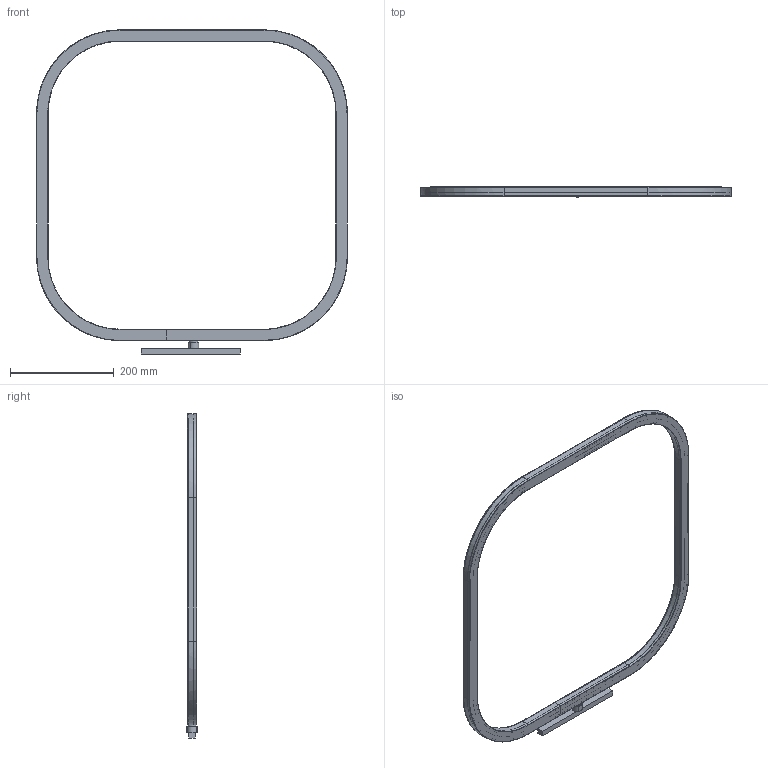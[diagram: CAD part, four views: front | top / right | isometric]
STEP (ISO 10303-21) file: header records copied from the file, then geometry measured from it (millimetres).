
FILE_DESCRIPTION(/* description */ (''),/* implementation_level */ '2;1');
FILE_NAME(/* name */ 'Turn Around - Square Vertical Diffused',/* time_stamp */ '2025-12-22T11:05:10+01:00',/* author */ (''),/* organization */ (''),/* preprocessor_version */ 'ST-DEVELOPER v16.5',/* originating_system */ 'Rhino 7.37',/* authorisation */ '');
FILE_SCHEMA (('AUTOMOTIVE_DESIGN'));
Length unit declared in the file: millimetre
Products named in the file (3): Document; WTC0875_--SQUARE PROFILE MACHINED _altrep_ WTC0875---alt1__MODELNX-AR
RAGMNTArrangement 1; Y411000539_--STRIPLED 48V 3000K FOR SQUARE MODULE
Assembly tree (2 placements, depth 2):
  Document
    WTC0875_--SQUARE PROFILE MACHINED _altrep_ WTC0875---alt1__MODELNX-AR
RAGMNTArrangement 1
    Y411000539_--STRIPLED 48V 3000K FOR SQUARE MODULE
Bounding box: 600 x 19.97 x 626.07 mm (x, y, z)
Volume: 263557.9 mm3; surface area: 399131.6 mm2
Topology: 9 solids, 10 shells, 797 faces, 1958 edges, 1146 vertices
Faces by surface type: cylinder 345, plane 238, bspline 214
Entity records: 34559 total; most frequent: CARTESIAN_POINT 22166, ORIENTED_EDGE 3880, EDGE_CURVE 1958, VERTEX_POINT 1146, B_SPLINE_CURVE_WITH_KNOTS 1045, EDGE_LOOP 811, ADVANCED_FACE 797, FACE_OUTER_BOUND 797
